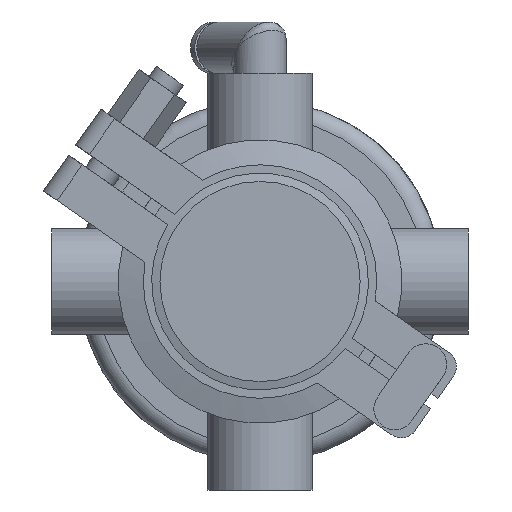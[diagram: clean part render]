
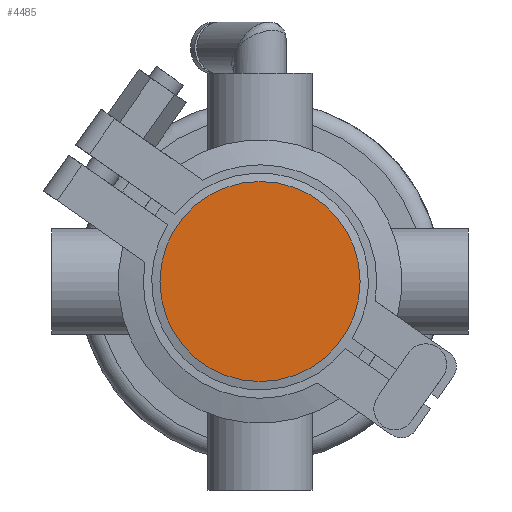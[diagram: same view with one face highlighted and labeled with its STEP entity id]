
A CAD part, front view. The second image highlights one B-rep face of the part: STEP entity #4485.
In plain terms, the highlighted planar face has unit normal (0, -1, 0).
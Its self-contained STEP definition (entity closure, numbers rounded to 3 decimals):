
#128 = AXIS2_PLACEMENT_3D ( 'NONE', #16831, #2502, #15310 ) ;
#2502 = DIRECTION ( 'NONE',  ( 0., 1., 0. ) ) ;
#3925 = CARTESIAN_POINT ( 'NONE',  ( -24., 0., 0. ) ) ;
#4485 = ADVANCED_FACE ( 'NONE', ( #8647 ), #16812, .T. ) ;
#4790 = EDGE_LOOP ( 'NONE', ( #18133 ) ) ;
#6722 = VERTEX_POINT ( 'NONE', #17170 ) ;
#7425 = DIRECTION ( 'NONE',  ( 0., -1., 0. ) ) ;
#8647 = FACE_OUTER_BOUND ( 'NONE', #4790, .T. ) ;
#10260 = AXIS2_PLACEMENT_3D ( 'NONE', #3925, #7425, #18018 ) ;
#15310 = DIRECTION ( 'NONE',  ( 0., 0., 1. ) ) ;
#16812 = PLANE ( 'NONE',  #10260 ) ;
#16831 = CARTESIAN_POINT ( 'NONE',  ( 0., 0., 0. ) ) ;
#17170 = CARTESIAN_POINT ( 'NONE',  ( 0., 0., 24. ) ) ;
#17963 = EDGE_CURVE ( 'NONE', #6722, #6722, #19389, .T. ) ;
#18018 = DIRECTION ( 'NONE',  ( 0., 0., -1. ) ) ;
#18133 = ORIENTED_EDGE ( 'NONE', *, *, #17963, .F. ) ;
#19389 = CIRCLE ( 'NONE', #128, 24. ) ;
